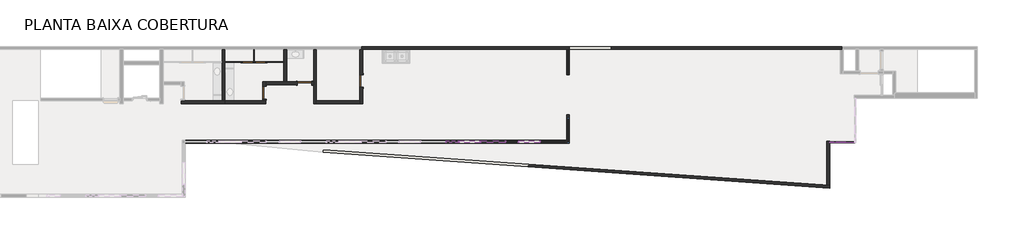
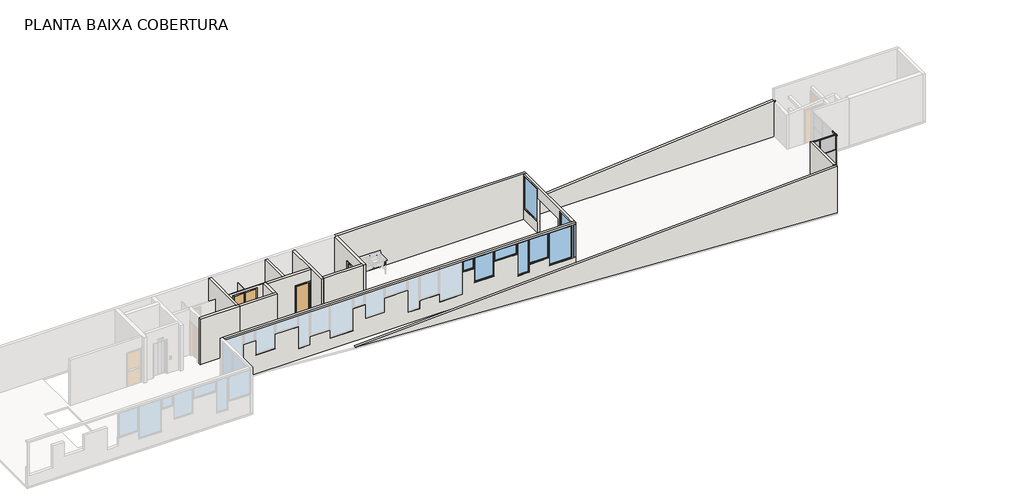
# One storey, part 2 of 3: 18 members, 17 walls, 8 windows, 6 plates, 5 doors.
"""IFC4 building model written with IfcOpenShell, lengths in millimetres."""

from ifc_helpers import new_model, si_unit, frame, origin, place, context, project, spatial, polyline, outline, extrude, faceted_brep, transform, mapped, element, save
from components import door_700_x_2100_mm_6c6cf384, door_800_x_2100_mm_905e31af, porta_de_banheiro_c374852d, porta_de_banheiro_1c1a7de0, rectangular_mullion_4x4_cm_offset_2cm_2258c4c8, rectangular_mullion_4x4_cm_offset_2cm_3eb18034, rectangular_mullion_4x4_cm_offset_2cm_f367b127, rectangular_mullion_4x4_cm_offset_2cm_0519d578, rectangular_mullion_4x4_cm_offset_2cm_ddc5f716, rectangular_mullion_4x4_cm_offset_2cm_ef480744, rectangular_mullion_4x4_cm_offset_2cm_ab246246, rectangular_mullion_4x4_cm_offset_2cm_4f439c76, rectangular_mullion_4x4_cm_offset_2cm_b066c65d, system_panel_vidro_2cm_7b007d6b, system_panel_vidro_2cm_2af9035d, system_panel_vidro_2cm_ac0d1a9e, system_panel_vidro_2cm_6ec49b1f, aluminum_exterior_window_2_wide_3886_0_70_x_0_70m_bfecb7e2, aluminum_exterior_window_2_wide_3886_0_70_x_2_10m_7c316bb6, aluminum_exterior_window_2_wide_3886_1_20_x_1_60m_92f5631a, aluminum_exterior_window_2_wide_3886_1_40_x_0_70m_1044a296, aluminum_exterior_window_2_wide_3886_1_40_x_2_10_m_fd60d73d

model = new_model("IFC4")

# Units and contexts
model_context = context("Model", 3, world=origin())
ifc_project = project(units=[si_unit("LENGTHUNIT", "METRE", prefix="MILLI")], contexts=[model_context])

# Site, building, storey
site = spatial("IfcSite", under=ifc_project)
building = spatial("IfcBuilding", under=site)
storey = spatial("IfcBuildingStorey", under=building, Name="PLANTA BAIXA COBERTURA", Elevation=7200.0)

# Doors
placement = place(None, origin())
door_700_x_2100_mm_shape = door_700_x_2100_mm_6c6cf384(model_context)
element("IfcDoor", 1, ObjectType="M_Folha única : 700 x 2100 mm", at=placement, inside=storey, context=model_context, shape_type="MappedRepresentation", body=[
    mapped(door_700_x_2100_mm_shape, transform((3420.3673655, -5291.1116245, 7200.0), x_axis=(0.0, -1.0, 0.0), y_axis=(1.0, 0.0, 0.0), z_axis=(0.0, 0.0, 1.0))),
])
element("IfcDoor", 2, ObjectType="M_Folha única : 700 x 2100 mm", at=placement, inside=storey, context=model_context, shape_type="MappedRepresentation", body=[
    mapped(door_700_x_2100_mm_shape, transform((8770.3673655, -4641.1116245, 7200.0), x_axis=(0.0, -1.0, 0.0), y_axis=(1.0, 0.0, 0.0), z_axis=(0.0, 0.0, 1.0))),
])
door_800_x_2100_mm_shape = door_800_x_2100_mm_905e31af(model_context)
element("IfcDoor", 3, ObjectType="M_Folha única : 800 x 2100 mm", at=placement, inside=storey, context=model_context, shape_type="MappedRepresentation", body=[
    mapped(door_800_x_2100_mm_shape, transform((5645.3673655, -4766.1116245, 7200.0), x_axis=(1.0, 0.0, 0.0), y_axis=(0.0, 1.0, 0.0), z_axis=(0.0, 0.0, 1.0))),
])
porta_de_banheiro_shape = porta_de_banheiro_c374852d(model_context)
element("IfcDoor", 4, ObjectType="M_Folha única : Porta de Banheiro", at=placement, inside=storey, context=model_context, shape_type="MappedRepresentation", body=[
    mapped(porta_de_banheiro_shape, transform((2505.3673655, -3603.6116245, 7200.0), x_axis=(1.0, 0.0, 0.0), y_axis=(0.0, 1.0, 0.0), z_axis=(0.0, 0.0, 1.0))),
])
porta_de_banheiro_2_shape = porta_de_banheiro_1c1a7de0(model_context)
element("IfcDoor", 5, ObjectType="M_Folha única : Porta de Banheiro", at=placement, inside=storey, context=model_context, shape_type="MappedRepresentation", body=[
    mapped(porta_de_banheiro_2_shape, transform((3210.3673655, -3603.6116245, 7200.0), x_axis=(-1.0, 0.0, 0.0), y_axis=(0.0, -1.0, 0.0), z_axis=(0.0, 0.0, 1.0))),
])

# Members
rectangular_mullion_4x4_cm_offset_2cm_shape = rectangular_mullion_4x4_cm_offset_2cm_2258c4c8(model_context)
element("IfcMember", 6, ObjectType="Rectangular Mullion : 4x4 cm - offset 2cm", at=placement, inside=storey, context=model_context, shape_type="MappedRepresentation", body=[
    mapped(rectangular_mullion_4x4_cm_offset_2cm_shape, transform((35995.3673655, -8041.1116245, 7200.0), x_axis=(0.0, 0.0, -1.0), y_axis=(0.0, 1.0, 0.0), z_axis=(1.0, 0.0, 0.0))),
])
element("IfcMember", 7, ObjectType="Rectangular Mullion : 4x4 cm - offset 2cm", at=placement, inside=storey, context=model_context, shape_type="MappedRepresentation", body=[
    mapped(rectangular_mullion_4x4_cm_offset_2cm_shape, transform((34995.3673652, -8041.1116245, 10200.0), x_axis=(0.0, 0.0, 1.0), y_axis=(0.0, 1.0, 0.0), z_axis=(-1.0, 0.0, 0.0))),
])
rectangular_mullion_4x4_cm_offset_2cm_2_shape = rectangular_mullion_4x4_cm_offset_2cm_3eb18034(model_context)
element("IfcMember", 8, ObjectType="Rectangular Mullion : 4x4 cm - offset 2cm", at=placement, inside=storey, context=model_context, shape_type="MappedRepresentation", body=[
    mapped(rectangular_mullion_4x4_cm_offset_2cm_2_shape, transform((34995.3673652, -8041.1116245, 8200.0), x_axis=(0.0, 0.0, 1.0), y_axis=(0.0, 1.0, 0.0), z_axis=(-1.0, 0.0, 0.0))),
])
element("IfcMember", 9, ObjectType="Rectangular Mullion : 4x4 cm - offset 2cm", at=placement, inside=storey, context=model_context, shape_type="MappedRepresentation", body=[
    mapped(rectangular_mullion_4x4_cm_offset_2cm_2_shape, transform((34995.3673652, -8041.1116245, 9200.0), x_axis=(0.0, 0.0, 1.0), y_axis=(0.0, 1.0, 0.0), z_axis=(-1.0, 0.0, 0.0))),
])
rectangular_mullion_4x4_cm_offset_2cm_3_shape = rectangular_mullion_4x4_cm_offset_2cm_f367b127(model_context)
element("IfcMember", 10, ObjectType="Rectangular Mullion : 4x4 cm - offset 2cm", at=placement, inside=storey, context=model_context, shape_type="MappedRepresentation", body=[
    mapped(rectangular_mullion_4x4_cm_offset_2cm_3_shape, transform((34995.3673652, -8041.1116245, 7240.0), x_axis=(-1.0, 0.0, 0.0), y_axis=(0.0, 1.0, 0.0), z_axis=(0.0, 0.0, -1.0))),
])
element("IfcMember", 11, ObjectType="Rectangular Mullion : 4x4 cm - offset 2cm", at=placement, inside=storey, context=model_context, shape_type="MappedRepresentation", body=[
    mapped(rectangular_mullion_4x4_cm_offset_2cm_3_shape, transform((34995.3673652, -8041.1116245, 8240.0), x_axis=(-1.0, 0.0, 0.0), y_axis=(0.0, 1.0, 0.0), z_axis=(0.0, 0.0, -1.0))),
])
rectangular_mullion_4x4_cm_offset_2cm_4_shape = rectangular_mullion_4x4_cm_offset_2cm_0519d578(model_context)
element("IfcMember", 12, ObjectType="Rectangular Mullion : 4x4 cm - offset 2cm", at=placement, inside=storey, context=model_context, shape_type="MappedRepresentation", body=[
    mapped(rectangular_mullion_4x4_cm_offset_2cm_4_shape, transform((34595.3673655, -8041.1116245, 7240.0), x_axis=(-1.0, 0.0, 0.0), y_axis=(0.0, 1.0, 0.0), z_axis=(0.0, 0.0, -1.0))),
])
element("IfcMember", 13, ObjectType="Rectangular Mullion : 4x4 cm - offset 2cm", at=placement, inside=storey, context=model_context, shape_type="MappedRepresentation", body=[
    mapped(rectangular_mullion_4x4_cm_offset_2cm_4_shape, transform((35995.3673655, -8041.1116245, 8200.0), x_axis=(1.0, 0.0, 0.0), y_axis=(0.0, 1.0, 0.0), z_axis=(0.0, 0.0, 1.0))),
])
rectangular_mullion_4x4_cm_offset_2cm_5_shape = rectangular_mullion_4x4_cm_offset_2cm_ddc5f716(model_context)
element("IfcMember", 14, ObjectType="Rectangular Mullion : 4x4 cm - offset 2cm", at=placement, inside=storey, context=model_context, shape_type="MappedRepresentation", body=[
    mapped(rectangular_mullion_4x4_cm_offset_2cm_5_shape, transform((34595.3673655, -8041.1116245, 8200.0), x_axis=(-1.0, 0.0, 0.0), y_axis=(0.0, 1.0, 0.0), z_axis=(0.0, 0.0, -1.0))),
])
element("IfcMember", 15, ObjectType="Rectangular Mullion : 4x4 cm - offset 2cm", at=placement, inside=storey, context=model_context, shape_type="MappedRepresentation", body=[
    mapped(rectangular_mullion_4x4_cm_offset_2cm_5_shape, transform((35995.3673655, -8041.1116245, 9200.0), x_axis=(1.0, 0.0, 0.0), y_axis=(0.0, 1.0, 0.0), z_axis=(0.0, 0.0, 1.0))),
])
rectangular_mullion_4x4_cm_offset_2cm_6_shape = rectangular_mullion_4x4_cm_offset_2cm_ef480744(model_context)
element("IfcMember", 16, ObjectType="Rectangular Mullion : 4x4 cm - offset 2cm", at=placement, inside=storey, context=model_context, shape_type="MappedRepresentation", body=[
    mapped(rectangular_mullion_4x4_cm_offset_2cm_6_shape, transform((34995.3673652, -8041.1116245, 9240.0), x_axis=(-1.0, 0.0, 0.0), y_axis=(0.0, 1.0, 0.0), z_axis=(0.0, 0.0, -1.0))),
])
element("IfcMember", 17, ObjectType="Rectangular Mullion : 4x4 cm - offset 2cm", at=placement, inside=storey, context=model_context, shape_type="MappedRepresentation", body=[
    mapped(rectangular_mullion_4x4_cm_offset_2cm_4_shape, transform((35995.3673655, -8041.1116245, 10160.0), x_axis=(1.0, 0.0, 0.0), y_axis=(0.0, 1.0, 0.0), z_axis=(0.0, 0.0, 1.0))),
])
element("IfcMember", 18, ObjectType="Rectangular Mullion : 4x4 cm - offset 2cm", at=placement, inside=storey, context=model_context, shape_type="MappedRepresentation", body=[
    mapped(rectangular_mullion_4x4_cm_offset_2cm_4_shape, transform((34595.3673655, -8041.1116245, 9200.0), x_axis=(-1.0, 0.0, 0.0), y_axis=(0.0, 1.0, 0.0), z_axis=(0.0, 0.0, -1.0))),
])
rectangular_mullion_4x4_cm_offset_2cm_7_shape = rectangular_mullion_4x4_cm_offset_2cm_ab246246(model_context)
element("IfcMember", 19, ObjectType="Rectangular Mullion : 4x4 cm - offset 2cm", at=placement, inside=storey, context=model_context, shape_type="MappedRepresentation", body=[
    mapped(rectangular_mullion_4x4_cm_offset_2cm_7_shape, transform((36035.3673655, -8041.1116245, 10100.0), x_axis=(0.0, 0.0, 1.0), y_axis=(-1.0, 0.0, 0.0), z_axis=(0.0, -1.0, 0.0))),
])
rectangular_mullion_4x4_cm_offset_2cm_8_shape = rectangular_mullion_4x4_cm_offset_2cm_4f439c76(model_context)
element("IfcMember", 20, ObjectType="Rectangular Mullion : 4x4 cm - offset 2cm", at=placement, inside=storey, context=model_context, shape_type="MappedRepresentation", body=[
    mapped(rectangular_mullion_4x4_cm_offset_2cm_8_shape, transform((34595.3673655, -8041.1116245, 10200.0), x_axis=(0.0, 0.0, 1.0), y_axis=(0.0, 1.0, 0.0), z_axis=(-1.0, 0.0, 0.0))),
])
element("IfcMember", 21, ObjectType="Rectangular Mullion : 4x4 cm - offset 2cm", at=placement, inside=storey, context=model_context, shape_type="MappedRepresentation", body=[
    mapped(rectangular_mullion_4x4_cm_offset_2cm_8_shape, transform((34995.3673652, -8041.1116245, 7200.0), x_axis=(0.0, 0.0, -1.0), y_axis=(0.0, 1.0, 0.0), z_axis=(1.0, 0.0, 0.0))),
])
rectangular_mullion_4x4_cm_offset_2cm_9_shape = rectangular_mullion_4x4_cm_offset_2cm_b066c65d(model_context)
element("IfcMember", 22, ObjectType="Rectangular Mullion : 4x4 cm - offset 2cm", at=placement, inside=storey, context=model_context, shape_type="MappedRepresentation", body=[
    mapped(rectangular_mullion_4x4_cm_offset_2cm_9_shape, transform((34635.3673655, -8041.1116245, 8200.0), x_axis=(0.0, 0.0, 1.0), y_axis=(0.0, 1.0, 0.0), z_axis=(-1.0, 0.0, 0.0))),
])
element("IfcMember", 23, ObjectType="Rectangular Mullion : 4x4 cm - offset 2cm", at=placement, inside=storey, context=model_context, shape_type="MappedRepresentation", body=[
    mapped(rectangular_mullion_4x4_cm_offset_2cm_9_shape, transform((34635.3673655, -8041.1116245, 9200.0), x_axis=(0.0, 0.0, 1.0), y_axis=(0.0, 1.0, 0.0), z_axis=(-1.0, 0.0, 0.0))),
])

# Plates
system_panel_vidro_2cm_shape = system_panel_vidro_2cm_7b007d6b(model_context)
element("IfcPlate", 24, ObjectType="System Panel : Vidro 2cm", at=placement, inside=storey, context=model_context, shape_type="MappedRepresentation", body=[
    mapped(system_panel_vidro_2cm_shape, transform((35475.3673654, -8041.1116245, 7240.0), x_axis=(-1.0, 0.0, 0.0), y_axis=(0.0, -1.0, 0.0), z_axis=(0.0, 0.0, 1.0))),
])
element("IfcPlate", 25, ObjectType="System Panel : Vidro 2cm", at=placement, inside=storey, context=model_context, shape_type="MappedRepresentation", body=[
    mapped(system_panel_vidro_2cm_shape, transform((35475.3673654, -8041.1116245, 8240.0), x_axis=(-1.0, 0.0, 0.0), y_axis=(0.0, -1.0, 0.0), z_axis=(0.0, 0.0, 1.0))),
])
system_panel_vidro_2cm_2_shape = system_panel_vidro_2cm_2af9035d(model_context)
element("IfcPlate", 26, ObjectType="System Panel : Vidro 2cm", at=placement, inside=storey, context=model_context, shape_type="MappedRepresentation", body=[
    mapped(system_panel_vidro_2cm_2_shape, transform((35475.3673654, -8041.1116245, 9240.0), x_axis=(-1.0, 0.0, 0.0), y_axis=(0.0, -1.0, 0.0), z_axis=(0.0, 0.0, 1.0))),
])
system_panel_vidro_2cm_3_shape = system_panel_vidro_2cm_ac0d1a9e(model_context)
element("IfcPlate", 27, ObjectType="System Panel : Vidro 2cm", at=placement, inside=storey, context=model_context, shape_type="MappedRepresentation", body=[
    mapped(system_panel_vidro_2cm_3_shape, transform((34795.3673654, -8041.1116245, 7240.0), x_axis=(-1.0, 0.0, 0.0), y_axis=(0.0, -1.0, 0.0), z_axis=(0.0, 0.0, 1.0))),
])
element("IfcPlate", 28, ObjectType="System Panel : Vidro 2cm", at=placement, inside=storey, context=model_context, shape_type="MappedRepresentation", body=[
    mapped(system_panel_vidro_2cm_3_shape, transform((34795.3673654, -8041.1116245, 8240.0), x_axis=(-1.0, 0.0, 0.0), y_axis=(0.0, -1.0, 0.0), z_axis=(0.0, 0.0, 1.0))),
])
system_panel_vidro_2cm_4_shape = system_panel_vidro_2cm_6ec49b1f(model_context)
element("IfcPlate", 29, ObjectType="System Panel : Vidro 2cm", at=placement, inside=storey, context=model_context, shape_type="MappedRepresentation", body=[
    mapped(system_panel_vidro_2cm_4_shape, transform((34795.3673654, -8041.1116245, 9240.0), x_axis=(-1.0, 0.0, 0.0), y_axis=(0.0, -1.0, 0.0), z_axis=(0.0, 0.0, 1.0))),
])

# Walls
element("IfcWall", 30, ObjectType="Genérica - 15cm", at=placement, inside=storey, context=model_context, shape_type="Brep", body=[
    faceted_brep([(34595.3673655, -10401.3312557, 7200.0), (34445.3673655, -10390.7380353, 7200.0), (6675.4976572, -8429.5890446, 7200.0), (34595.3673655, -10401.3312557, 10159.7132577), (34595.3673655, -10551.7048448, 7200.0), (34595.3673655, -10551.7048448, 10160.8334278), (6664.9307547, -8579.2163836, 7200.0)], [[[0, 1, 2, 3]], [[4, 5, 6]], [[0, 3, 5, 4]], [[2, 1, 0, 4, 6]], [[3, 2, 6, 5]]]),
])
element("IfcWall", 31, ObjectType="Genérica - 15cm", at=placement, inside=storey, context=model_context, shape_type="SweptSolid", body=[
    extrude(outline(polyline([(1095.3673655, -5741.1116245), (1095.3673655, -2891.1116245), (1245.3673655, -2891.1116245), (1245.3673655, -5741.1116245), (1095.3673655, -5741.1116245)])), frame((0.0, 0.0, 7200.0), z_axis=(0.0, 0.0, 1.0), x_axis=(1.0, 0.0, 0.0)), (0.0, 0.0, 1.0), 2900.0),
])
element("IfcWall", 32, ObjectType="Genérica - 15cm", at=placement, inside=storey, context=model_context, shape_type="Brep", body=[
    faceted_brep([(1245.3673655, -5741.1116245, 7200.0), (1095.3673655, -5741.1116245, 7200.0), (-1004.6326345, -5741.1116245, 7200.0), (-1154.6326345, -5741.1116245, 7200.0), (-1154.6326345, -5741.1116245, 10100.0), (-1004.6326345, -5741.1116245, 10100.0), (1095.3673655, -5741.1116245, 10100.0), (1245.3673655, -5741.1116245, 10100.0), (1245.3673655, -5891.1116245, 7200.0), (1245.3673655, -5891.1116245, 10100.0), (-1154.6326345, -5891.1116245, 10100.0), (-1154.6326345, -5891.1116245, 7200.0)], [[[0, 1, 2, 3, 4, 5, 6, 7]], [[8, 9, 10, 11]], [[3, 2, 1, 0, 8, 11]], [[0, 7, 9, 8]], [[4, 3, 11, 10]], [[7, 6, 5, 4, 10, 9]]]),
])
element("IfcWall", 33, ObjectType="Genérica - 15cm", at=placement, inside=storey, context=model_context, shape_type="Brep", body=[
    faceted_brep([(1245.3673655, -5891.1116245, 7200.0), (3495.3673655, -5891.1116245, 7200.0), (3495.3673655, -5891.1116245, 10100.0), (1245.3673655, -5891.1116245, 10100.0), (1245.3673655, -5741.1116245, 7200.0), (1245.3673655, -5741.1116245, 10100.0), (3345.3673655, -5741.1116245, 10100.0), (3495.3673655, -5741.1116245, 10100.0), (3495.3673655, -5741.1116245, 7200.0), (3345.3673655, -5741.1116245, 7200.0)], [[[0, 1, 2, 3]], [[4, 5, 6, 7, 8, 9]], [[1, 0, 4, 9, 8]], [[0, 3, 5, 4]], [[2, 1, 8, 7]], [[3, 2, 7, 6, 5]]]),
])
element("IfcWall", 34, ObjectType="Genérica - 15cm", at=placement, inside=storey, context=model_context, shape_type="Brep", body=[
    faceted_brep([(3495.3673655, -5741.1116245, 7200.0), (3495.3673655, -5641.1116245, 7200.0), (3495.3673655, -5641.1116245, 9300.0), (3495.3673655, -4941.1116245, 9300.0), (3495.3673655, -4941.1116245, 7200.0), (3495.3673655, -4841.1116245, 7200.0), (3495.3673655, -4691.1116245, 7200.0), (3495.3673655, -4691.1116245, 10100.0), (3495.3673655, -4841.1116245, 10100.0), (3495.3673655, -5741.1116245, 10100.0), (3345.3673655, -5641.1116245, 9300.0), (3345.3673655, -5641.1116245, 7200.0), (3345.3673655, -5741.1116245, 7200.0), (3345.3673655, -5741.1116245, 10100.0), (3345.3673655, -4691.1116245, 10100.0), (3345.3673655, -4691.1116245, 7200.0), (3345.3673655, -4941.1116245, 7200.0), (3345.3673655, -4941.1116245, 9300.0)], [[[0, 1, 2, 3, 4, 5, 6, 7, 8, 9]], [[10, 11, 12, 13, 14, 15, 16, 17]], [[16, 15, 6, 5, 4]], [[12, 11, 1, 0]], [[0, 9, 13, 12]], [[9, 8, 7, 14, 13]], [[2, 1, 11, 10]], [[3, 2, 10, 17]], [[4, 3, 17, 16]], [[7, 6, 15, 14]]]),
])
element("IfcWall", 35, ObjectType="Genérica - 15cm", at=placement, inside=storey, context=model_context, shape_type="Brep", body=[
    faceted_brep([(6045.3673655, -4841.1116245, 9300.0), (6045.3673655, -4841.1116245, 7200.0), (6145.3673655, -4841.1116245, 7200.0), (6145.3673655, -4841.1116245, 10100.0), (3495.3673655, -4841.1116245, 10100.0), (3495.3673655, -4841.1116245, 7200.0), (5245.3673655, -4841.1116245, 7200.0), (5245.3673655, -4841.1116245, 9300.0), (6145.3673655, -4691.1116245, 7200.0), (6045.3673655, -4691.1116245, 7200.0), (6045.3673655, -4691.1116245, 9300.0), (5245.3673655, -4691.1116245, 9300.0), (5245.3673655, -4691.1116245, 7200.0), (4645.3673655, -4691.1116245, 7200.0), (4495.3673655, -4691.1116245, 7200.0), (3495.3673655, -4691.1116245, 7200.0), (3495.3673655, -4691.1116245, 10100.0), (4495.3673655, -4691.1116245, 10100.0), (4645.3673655, -4691.1116245, 10100.0), (6145.3673655, -4691.1116245, 10100.0)], [[[0, 1, 2, 3, 4, 5, 6, 7]], [[8, 9, 10, 11, 12, 13, 14, 15, 16, 17, 18, 19]], [[6, 5, 15, 14, 13, 12]], [[2, 1, 9, 8]], [[3, 2, 8, 19]], [[4, 3, 19, 18, 17, 16]], [[10, 9, 1, 0]], [[11, 10, 0, 7]], [[12, 11, 7, 6]], [[5, 4, 16, 15]]]),
])
element("IfcWall", 36, ObjectType="Genérica - 15cm", at=placement, inside=storey, context=model_context, shape_type="Brep", body=[
    faceted_brep([(6145.3673655, -2891.1116245, 7200.0), (6145.3673655, -4691.1116245, 7200.0), (6145.3673655, -4841.1116245, 7200.0), (6145.3673655, -5891.1116245, 7200.0), (6145.3673655, -5891.1116245, 10100.0), (6145.3673655, -4841.1116245, 10100.0), (6145.3673655, -4691.1116245, 10100.0), (6145.3673655, -2891.1116245, 10100.0), (6295.3673655, -2891.1116245, 7200.0), (6295.3673655, -2891.1116245, 10100.0), (6295.3673655, -5741.1116245, 10100.0), (6295.3673655, -5891.1116245, 10100.0), (6295.3673655, -5891.1116245, 7200.0), (6295.3673655, -5741.1116245, 7200.0)], [[[0, 1, 2, 3, 4, 5, 6, 7]], [[8, 9, 10, 11, 12, 13]], [[3, 2, 1, 0, 8, 13, 12]], [[4, 3, 12, 11]], [[0, 7, 9, 8]], [[7, 6, 5, 4, 11, 10, 9]]]),
])
element("IfcWall", 37, ObjectType="Genérica - 15cm", at=placement, inside=storey, context=model_context, shape_type="Brep", body=[
    faceted_brep([(8695.3673655, -4991.1116245, 9300.0), (8695.3673655, -4991.1116245, 7200.0), (8695.3673655, -5741.1116245, 7200.0), (8695.3673655, -5891.1116245, 7200.0), (8695.3673655, -5891.1116245, 10100.0), (8695.3673655, -5741.1116245, 10100.0), (8695.3673655, -2891.1116245, 10100.0), (8695.3673655, -2891.1116245, 7200.0), (8695.3673655, -4291.1116245, 7200.0), (8695.3673655, -4291.1116245, 9300.0), (8845.3673655, -5891.1116245, 7200.0), (8845.3673655, -4991.1116245, 7200.0), (8845.3673655, -4991.1116245, 9300.0), (8845.3673655, -4291.1116245, 9300.0), (8845.3673655, -4291.1116245, 7200.0), (8845.3673655, -2891.1116245, 7200.0), (8845.3673655, -2891.1116245, 10100.0), (8845.3673655, -5891.1116245, 10100.0), (8770.3673655, -2891.1116245, 7200.0), (8770.3673655, -2891.1116245, 10100.0)], [[[0, 1, 2, 3, 4, 5, 6, 7, 8, 9]], [[10, 11, 12, 13, 14, 15, 16, 17]], [[8, 7, 18, 15, 14]], [[3, 2, 1, 11, 10]], [[4, 3, 10, 17]], [[7, 6, 19, 16, 15, 18]], [[6, 5, 4, 17, 16, 19]], [[12, 11, 1, 0]], [[13, 12, 0, 9]], [[14, 13, 9, 8]]]),
])
element("IfcWall", 38, ObjectType="Genérica - 15cm", at=placement, inside=storey, context=model_context, shape_type="SweptSolid", body=[
    extrude(outline(polyline([(8695.3673655, -5891.1116245), (6295.3673655, -5891.1116245), (6295.3673655, -5741.1116245), (8695.3673655, -5741.1116245), (8695.3673655, -5891.1116245)])), frame((0.0, 0.0, 7200.0), z_axis=(0.0, 0.0, 1.0), x_axis=(1.0, 0.0, 0.0)), (0.0, 0.0, 1.0), 2900.0),
])
element("IfcWall", 39, ObjectType="Genérica - 15cm", at=placement, inside=storey, context=model_context, shape_type="SweptSolid", body=[
    extrude(outline(polyline([(4495.3673655, -4691.1116245), (4495.3673655, -2891.1116245), (4645.3673655, -2891.1116245), (4645.3673655, -4691.1116245), (4495.3673655, -4691.1116245)])), frame((0.0, 0.0, 7200.0), z_axis=(0.0, 0.0, 1.0), x_axis=(1.0, 0.0, 0.0)), (0.0, 0.0, 1.0), 2900.0),
])
element("IfcWall", 40, ObjectType="Genérica - 15cm", at=placement, inside=storey, context=model_context, shape_type="Brep", body=[
    faceted_brep([(-954.6326345, -8071.1116245, 7200.0), (20245.3673655, -8071.1116245, 7200.0), (20245.3673655, -8071.1116245, 7900.0), (20095.3673655, -8071.1116245, 7900.0), (20095.3673655, -8071.1116245, 10000.0), (20245.3673655, -8071.1116245, 10000.0), (20245.3673655, -8071.1116245, 10100.0), (-954.6326345, -8071.1116245, 10100.0), (-954.6326345, -8071.1116245, 10000.0), (20035.0673655, -8071.1116245, 10000.0), (20035.0673655, -8071.1116245, 7900.0), (18635.0673655, -8071.1116245, 7900.0), (18635.0673655, -8071.1116245, 8400.0), (17435.0673655, -8071.1116245, 8400.0), (17435.0673655, -8071.1116245, 7900.0), (16735.0673655, -8071.1116245, 7900.0), (16735.0673655, -8071.1116245, 9300.0), (15335.0673655, -8071.1116245, 9300.0), (15335.0673655, -8071.1116245, 8400.0), (14135.0673655, -8071.1116245, 8400.0), (14135.0673655, -8071.1116245, 9300.0), (13435.0673655, -8071.1116245, 9300.0), (13435.0673655, -8071.1116245, 7900.0), (12035.0673655, -8071.1116245, 7900.0), (12035.0673655, -8071.1116245, 8400.0), (10835.0673655, -8071.1116245, 8400.0), (10835.0673655, -8071.1116245, 7900.0), (10135.0673655, -8071.1116245, 7900.0), (10135.0673655, -8071.1116245, 9300.0), (8735.0673655, -8071.1116245, 9300.0), (8735.0673655, -8071.1116245, 8400.0), (7535.0673655, -8071.1116245, 8400.0), (7535.0673655, -8071.1116245, 9300.0), (6835.0673655, -8071.1116245, 9300.0), (6835.0673655, -8071.1116245, 7900.0), (5435.0673655, -8071.1116245, 7900.0), (5435.0673655, -8071.1116245, 8400.0), (4235.0673655, -8071.1116245, 8400.0), (4235.0673655, -8071.1116245, 7900.0), (3535.0673655, -8071.1116245, 7900.0), (3535.0673655, -8071.1116245, 9300.0), (2135.0673655, -8071.1116245, 9300.0), (2135.0673655, -8071.1116245, 8400.0), (935.0673655, -8071.1116245, 8400.0), (935.0673655, -8071.1116245, 9300.0), (235.0673655, -8071.1116245, 9300.0), (235.0673655, -8071.1116245, 7900.0), (-954.6326345, -8071.1116245, 7900.0), (20245.3673655, -7921.1116245, 7200.0), (20095.3673655, -7921.1116245, 7200.0), (-954.6326345, -7921.1116245, 7200.0), (-954.6326345, -7921.1116245, 7900.0), (235.0673655, -7921.1116245, 7900.0), (235.0673655, -7921.1116245, 9300.0), (935.0673655, -7921.1116245, 9300.0), (935.0673655, -7921.1116245, 8400.0), (2135.0673655, -7921.1116245, 8400.0), (2135.0673655, -7921.1116245, 9300.0), (3535.0673655, -7921.1116245, 9300.0), (3535.0673655, -7921.1116245, 7900.0), (4235.0673655, -7921.1116245, 7900.0), (4235.0673655, -7921.1116245, 8400.0), (5435.0673655, -7921.1116245, 8400.0), (5435.0673655, -7921.1116245, 7900.0), (6835.0673655, -7921.1116245, 7900.0), (6835.0673655, -7921.1116245, 9300.0), (7535.0673655, -7921.1116245, 9300.0), (7535.0673655, -7921.1116245, 8400.0), (8735.0673655, -7921.1116245, 8400.0), (8735.0673655, -7921.1116245, 9300.0), (10135.0673655, -7921.1116245, 9300.0), (10135.0673655, -7921.1116245, 7900.0), (10835.0673655, -7921.1116245, 7900.0), (10835.0673655, -7921.1116245, 8400.0), (12035.0673655, -7921.1116245, 8400.0), (12035.0673655, -7921.1116245, 7900.0), (13435.0673655, -7921.1116245, 7900.0), (13435.0673655, -7921.1116245, 9300.0), (14135.0673655, -7921.1116245, 9300.0), (14135.0673655, -7921.1116245, 8400.0), (15335.0673655, -7921.1116245, 8400.0), (15335.0673655, -7921.1116245, 9300.0), (16735.0673655, -7921.1116245, 9300.0), (16735.0673655, -7921.1116245, 7900.0), (17435.0673655, -7921.1116245, 7900.0), (17435.0673655, -7921.1116245, 8400.0), (18635.0673655, -7921.1116245, 8400.0), (18635.0673655, -7921.1116245, 7900.0), (20035.0673655, -7921.1116245, 7900.0), (20035.0673655, -7921.1116245, 10000.0), (-954.6326345, -7921.1116245, 10000.0), (-954.6326345, -7921.1116245, 10100.0), (20095.3673655, -7921.1116245, 10100.0), (20245.3673655, -7921.1116245, 10100.0), (20245.3673655, -7921.1116245, 10000.0), (20095.3673655, -7921.1116245, 10000.0), (20095.3673655, -7921.1116245, 7900.0), (20245.3673655, -7921.1116245, 7900.0)], [[[0, 1, 2, 3, 4, 5, 6, 7, 8, 9, 10, 11, 12, 13, 14, 15, 16, 17, 18, 19, 20, 21, 22, 23, 24, 25, 26, 27, 28, 29, 30, 31, 32, 33, 34, 35, 36, 37, 38, 39, 40, 41, 42, 43, 44, 45, 46, 47]], [[48, 49, 50, 51, 52, 53, 54, 55, 56, 57, 58, 59, 60, 61, 62, 63, 64, 65, 66, 67, 68, 69, 70, 71, 72, 73, 74, 75, 76, 77, 78, 79, 80, 81, 82, 83, 84, 85, 86, 87, 88, 89, 90, 91, 92, 93, 94, 95, 96, 97]], [[1, 0, 50, 49, 48]], [[50, 0, 47, 51]], [[7, 91, 90, 8]], [[1, 48, 97, 2]], [[93, 6, 5, 94]], [[7, 6, 93, 92, 91]], [[52, 46, 45, 53]], [[46, 52, 51, 47]], [[8, 90, 89, 9]], [[45, 44, 54, 53]], [[56, 42, 41, 57]], [[42, 56, 55, 43]], [[43, 55, 54, 44]], [[41, 40, 58, 57]], [[60, 38, 37, 61]], [[38, 60, 59, 39]], [[39, 59, 58, 40]], [[37, 36, 62, 61]], [[64, 34, 33, 65]], [[34, 64, 63, 35]], [[35, 63, 62, 36]], [[33, 32, 66, 65]], [[68, 30, 29, 69]], [[30, 68, 67, 31]], [[31, 67, 66, 32]], [[29, 28, 70, 69]], [[72, 26, 25, 73]], [[26, 72, 71, 27]], [[27, 71, 70, 28]], [[25, 24, 74, 73]], [[76, 22, 21, 77]], [[22, 76, 75, 23]], [[23, 75, 74, 24]], [[21, 20, 78, 77]], [[80, 18, 17, 81]], [[18, 80, 79, 19]], [[19, 79, 78, 20]], [[17, 16, 82, 81]], [[84, 14, 13, 85]], [[14, 84, 83, 15]], [[15, 83, 82, 16]], [[13, 12, 86, 85]], [[9, 89, 88, 10]], [[10, 88, 87, 11]], [[11, 87, 86, 12]], [[95, 4, 3, 96]], [[96, 3, 2, 97]], [[4, 95, 94, 5]]]),
])
element("IfcWall", 41, ObjectType="Genérica - 15cm", at=placement, inside=storey, context=model_context, shape_type="Brep", body=[
    faceted_brep([(20245.3673655, -2891.1116245, 10100.0), (20245.3673655, -7921.1116245, 10100.0), (20245.3673655, -7921.1116245, 10000.0), (20245.3673655, -6671.1116245, 10000.0), (20245.3673655, -6671.1116245, 7900.0), (20245.3673655, -7921.1116245, 7900.0), (20245.3673655, -7921.1116245, 7200.0), (20245.3673655, -6506.1116245, 7200.0), (20245.3673655, -6506.1116245, 9432.0), (20245.3673655, -4306.1116245, 9432.0), (20245.3673655, -4306.1116245, 7200.0), (20245.3673655, -2891.1116245, 7200.0), (20245.3673655, -2891.1116245, 8236.0489659), (20245.3673655, -4298.6116245, 10000.0), (20245.3673655, -2898.6116245, 10000.0), (20245.3673655, -2898.6116245, 7900.0), (20245.3673655, -4298.6116245, 7900.0), (20095.3673655, -7921.1116245, 10100.0), (20095.3673655, -2891.1116245, 10100.0), (20095.3673655, -2891.1116245, 7200.0), (20095.3673655, -4306.1116245, 7200.0), (20095.3673655, -4306.1116245, 9432.0), (20095.3673655, -6506.1116245, 9432.0), (20095.3673655, -6506.1116245, 7200.0), (20095.3673655, -7921.1116245, 7200.0), (20095.3673655, -7921.1116245, 7900.0), (20095.3673655, -6671.1116245, 7900.0), (20095.3673655, -6671.1116245, 10000.0), (20095.3673655, -7921.1116245, 10000.0), (20095.3673655, -4298.6116245, 10000.0), (20095.3673655, -4298.6116245, 7900.0), (20095.3673655, -2898.6116245, 7900.0), (20095.3673655, -2898.6116245, 10000.0), (20170.3673655, -2891.1116245, 7200.0)], [[[0, 1, 2, 3, 4, 5, 6, 7, 8, 9, 10, 11, 12], [13, 14, 15, 16]], [[17, 18, 19, 20, 21, 22, 23, 24, 25, 26, 27, 28], [29, 30, 31, 32]], [[6, 24, 23, 7]], [[19, 33, 11, 10, 20]], [[24, 6, 5, 25]], [[1, 17, 28, 2]], [[1, 0, 18, 17]], [[11, 33, 19, 18, 0, 12]], [[23, 22, 8, 7]], [[21, 20, 10, 9]], [[22, 21, 9, 8]], [[3, 27, 26, 4]], [[4, 26, 25, 5]], [[27, 3, 2, 28]], [[30, 29, 13, 16]], [[31, 30, 16, 15]], [[32, 31, 15, 14]], [[29, 32, 14, 13]]]),
])
element("IfcWall", 42, ObjectType="Genérica - 15cm", at=placement, inside=storey, context=model_context, shape_type="Brep", body=[
    faceted_brep([(34445.3673655, -7966.1116245, 7200.0), (34445.3673655, -10390.7380353, 7200.0), (34445.3673655, -10390.7380353, 10200.0), (34445.3673655, -7966.1116245, 10200.0), (34595.3673655, -7966.1116245, 7200.0), (34595.3673655, -7966.1116245, 10200.0), (34595.3673655, -10401.3312557, 10200.0), (34595.3673655, -10401.3312557, 10159.7132577), (34595.3673655, -10401.3312557, 7200.0)], [[[0, 1, 2, 3]], [[4, 5, 6, 7, 8]], [[1, 0, 4, 8]], [[3, 2, 6, 5]], [[0, 3, 5, 4]], [[2, 1, 8, 7, 6]]]),
])
element("IfcWall", 43, ObjectType="Genérica - 15cm", at=placement, inside=storey, context=model_context, shape_type="Brep", body=[
    faceted_brep([(8770.3673655, -2891.1116245, 7200.0), (8845.3673655, -2891.1116245, 7200.0), (20095.3673655, -2891.1116245, 7200.0), (20170.3673655, -2891.1116245, 7200.0), (20170.3673655, -2891.1116245, 8200.0), (20170.3673655, -2891.1116245, 8236.0489659), (20245.3673655, -2891.1116245, 8236.0489659), (20245.3673655, -2891.1116245, 10100.0), (20095.3673655, -2891.1116245, 10100.0), (8845.3673655, -2891.1116245, 10100.0), (8770.3673655, -2891.1116245, 10100.0), (8770.3673655, -2741.1116245, 7200.0), (8770.3673655, -2741.1116245, 10100.0), (20245.3673655, -2741.1116245, 10100.0), (20245.3673655, -2741.1116245, 8236.0489659), (20170.3673655, -2741.1116245, 8236.0489659), (20170.3673655, -2741.1116245, 8200.0), (20170.3673655, -2741.1116245, 7200.0)], [[[0, 1, 2, 3, 4, 5, 6, 7, 8, 9, 10]], [[11, 12, 13, 14, 15, 16, 17]], [[3, 2, 1, 0, 11, 17]], [[0, 10, 12, 11]], [[5, 4, 3, 17, 16, 15]], [[14, 6, 5, 15]], [[7, 6, 14, 13]], [[10, 9, 8, 7, 13, 12]]]),
])
element("IfcWall", 44, ObjectType="Genérica - 15cm", at=placement, inside=storey, context=model_context, shape_type="Brep", body=[
    faceted_brep([(20170.3673655, -2891.1116245, 7200.0), (20245.3673655, -2891.1116245, 7200.0), (35195.3673655, -2891.1116245, 7200.0), (35270.3673655, -2891.1116245, 7200.0), (35270.3673655, -2891.1116245, 9443.2275083), (35270.3673655, -2891.1116245, 9479.2764742), (20170.3673655, -2891.1116245, 8200.0), (20170.3673655, -2741.1116245, 7200.0), (20170.3673655, -2741.1116245, 8200.0), (35270.3673655, -2741.1116245, 9479.2764742), (35270.3673655, -2741.1116245, 9443.2275083), (35270.3673655, -2741.1116245, 7200.0)], [[[0, 1, 2, 3, 4, 5, 6]], [[7, 8, 9, 10, 11]], [[3, 2, 1, 0, 7, 11]], [[5, 4, 3, 11, 10, 9]], [[6, 5, 9, 8]], [[0, 6, 8, 7]]]),
])
element("IfcWall", 45, ObjectType="Divisória Banheiros", at=placement, inside=storey, context=model_context, shape_type="Brep", body=[
    faceted_brep([(4495.3673655, -3616.1116245, 9200.0), (1245.3673655, -3616.1116245, 9200.0), (1245.3673655, -3616.1116245, 7400.0), (2205.3673655, -3616.1116245, 7400.0), (2205.3673655, -3616.1116245, 9000.0), (2805.3673655, -3616.1116245, 9000.0), (2805.3673655, -3616.1116245, 7400.0), (2910.3673655, -3616.1116245, 7400.0), (2910.3673655, -3616.1116245, 9000.0), (3510.3673655, -3616.1116245, 9000.0), (3510.3673655, -3616.1116245, 7400.0), (4495.3673655, -3616.1116245, 7400.0), (1245.3673655, -3591.1116245, 9200.0), (2845.3673655, -3591.1116245, 9200.0), (2870.3673655, -3591.1116245, 9200.0), (4495.3673655, -3591.1116245, 9200.0), (4495.3673655, -3591.1116245, 7400.0), (3510.3673655, -3591.1116245, 7400.0), (3510.3673655, -3591.1116245, 9000.0), (2910.3673655, -3591.1116245, 9000.0), (2910.3673655, -3591.1116245, 7400.0), (2870.3673655, -3591.1116245, 7400.0), (2845.3673655, -3591.1116245, 7400.0), (2805.3673655, -3591.1116245, 7400.0), (2805.3673655, -3591.1116245, 9000.0), (2205.3673655, -3591.1116245, 9000.0), (2205.3673655, -3591.1116245, 7400.0), (1245.3673655, -3591.1116245, 7400.0)], [[[0, 1, 2, 3, 4, 5, 6, 7, 8, 9, 10, 11]], [[12, 13, 14, 15, 16, 17, 18, 19, 20, 21, 22, 23, 24, 25, 26, 27]], [[3, 2, 27, 26]], [[6, 23, 22, 21, 20, 7]], [[16, 11, 10, 17]], [[1, 0, 15, 14, 13, 12]], [[5, 24, 23, 6]], [[24, 5, 4, 25]], [[25, 4, 3, 26]], [[19, 8, 7, 20]], [[8, 19, 18, 9]], [[9, 18, 17, 10]], [[2, 1, 12, 27]], [[0, 11, 16, 15]]]),
])
element("IfcWall", 46, ObjectType="Divisória Banheiros", at=placement, inside=storey, context=model_context, shape_type="SweptSolid", body=[
    extrude(outline(polyline([(2870.3673655, -2891.1116245), (2870.3673655, -3591.1116245), (2845.3673655, -3591.1116245), (2845.3673655, -2891.1116245), (2870.3673655, -2891.1116245)])), frame((0.0, 0.0, 7400.0), z_axis=(0.0, 0.0, 1.0), x_axis=(1.0, 0.0, 0.0)), (0.0, 0.0, 1.0), 1800.0),
])

# Windows
aluminum_exterior_window_2_wide_3886_0_70_x_0_70m_shape = aluminum_exterior_window_2_wide_3886_0_70_x_0_70m_bfecb7e2(model_context)
element("IfcWindow", 47, ObjectType="Aluminum_Exterior_Window_-_2_Wide_3886 : 0,70 x 0,70m", at=placement, inside=storey, context=model_context, shape_type="MappedRepresentation", body=[
    mapped(aluminum_exterior_window_2_wide_3886_0_70_x_0_70m_shape, transform((14806.6673655, -8022.6691491, 8284.0), x_axis=(1.0, 0.0, 0.0), y_axis=(0.0, 1.0, 0.0), z_axis=(0.0, 0.0, 1.0))),
])
aluminum_exterior_window_2_wide_3886_0_70_x_2_10m_shape = aluminum_exterior_window_2_wide_3886_0_70_x_2_10m_7c316bb6(model_context)
element("IfcWindow", 48, ObjectType="Aluminum_Exterior_Window_-_2_Wide_3886 : 0,70 x 2,10m", at=placement, inside=storey, context=model_context, shape_type="MappedRepresentation", body=[
    mapped(aluminum_exterior_window_2_wide_3886_0_70_x_2_10m_shape, transform((18106.6673655, -8022.6691491, 6840.0), x_axis=(1.0, 0.0, 0.0), y_axis=(0.0, 1.0, 0.0), z_axis=(0.0, 0.0, 1.0))),
])
aluminum_exterior_window_2_wide_3886_1_20_x_1_60m_shape = aluminum_exterior_window_2_wide_3886_1_20_x_1_60m_92f5631a(model_context)
element("IfcWindow", 49, ObjectType="Aluminum_Exterior_Window_-_2_Wide_3886 : 1,20 x 1,60m", at=placement, inside=storey, context=model_context, shape_type="MappedRepresentation", body=[
    mapped(aluminum_exterior_window_2_wide_3886_1_20_x_1_60m_shape, transform((15506.6673655, -8022.6691491, 7384.0), x_axis=(1.0, 0.0, 0.0), y_axis=(0.0, 1.0, 0.0), z_axis=(0.0, 0.0, 1.0))),
])
element("IfcWindow", 50, ObjectType="Aluminum_Exterior_Window_-_2_Wide_3886 : 1,20 x 1,60m", at=placement, inside=storey, context=model_context, shape_type="MappedRepresentation", body=[
    mapped(aluminum_exterior_window_2_wide_3886_1_20_x_1_60m_shape, transform((18806.6673655, -8022.6691491, 7384.0), x_axis=(1.0, 0.0, 0.0), y_axis=(0.0, 1.0, 0.0), z_axis=(0.0, 0.0, 1.0))),
])
aluminum_exterior_window_2_wide_3886_1_40_x_0_70m_shape = aluminum_exterior_window_2_wide_3886_1_40_x_0_70m_1044a296(model_context)
element("IfcWindow", 51, ObjectType="Aluminum_Exterior_Window_-_2_Wide_3886 : 1,40 x 0,70m", at=placement, inside=storey, context=model_context, shape_type="MappedRepresentation", body=[
    mapped(aluminum_exterior_window_2_wide_3886_1_40_x_0_70m_shape, transform((16706.6673655, -8022.6691491, 8240.0), x_axis=(1.0, 0.0, 0.0), y_axis=(0.0, 1.0, 0.0), z_axis=(0.0, 0.0, 1.0))),
])
aluminum_exterior_window_2_wide_3886_1_40_x_2_10_m_shape = aluminum_exterior_window_2_wide_3886_1_40_x_2_10_m_fd60d73d(model_context)
element("IfcWindow", 52, ObjectType="Aluminum_Exterior_Window_-_2_Wide_3886 : 1,40 x 2,10 m", at=placement, inside=storey, context=model_context, shape_type="MappedRepresentation", body=[
    mapped(aluminum_exterior_window_2_wide_3886_1_40_x_2_10_m_shape, transform((20006.6673655, -8022.6691491, 6884.0), x_axis=(1.0, 0.0, 0.0), y_axis=(0.0, 1.0, 0.0), z_axis=(0.0, 0.0, 1.0))),
])
element("IfcWindow", 53, ObjectType="Aluminum_Exterior_Window_-_2_Wide_3886 : 1,40 x 2,10 m", at=placement, inside=storey, context=model_context, shape_type="MappedRepresentation", body=[
    mapped(aluminum_exterior_window_2_wide_3886_1_40_x_2_10_m_shape, transform((20196.9248902, -6699.5116245, 6884.0), x_axis=(0.0, 1.0, 0.0), y_axis=(-1.0, 0.0, 0.0), z_axis=(0.0, 0.0, 1.0))),
])
element("IfcWindow", 54, ObjectType="Aluminum_Exterior_Window_-_2_Wide_3886 : 1,40 x 2,10 m", at=placement, inside=storey, context=model_context, shape_type="MappedRepresentation", body=[
    mapped(aluminum_exterior_window_2_wide_3886_1_40_x_2_10_m_shape, transform((20143.8098409, -4270.2116245, 6884.0), x_axis=(0.0, -1.0, 0.0), y_axis=(1.0, 0.0, 0.0), z_axis=(0.0, 0.0, 1.0))),
])

save(model, "model.ifc")
